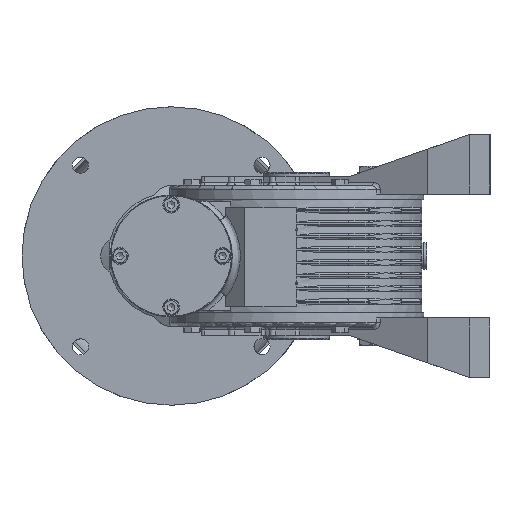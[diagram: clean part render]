
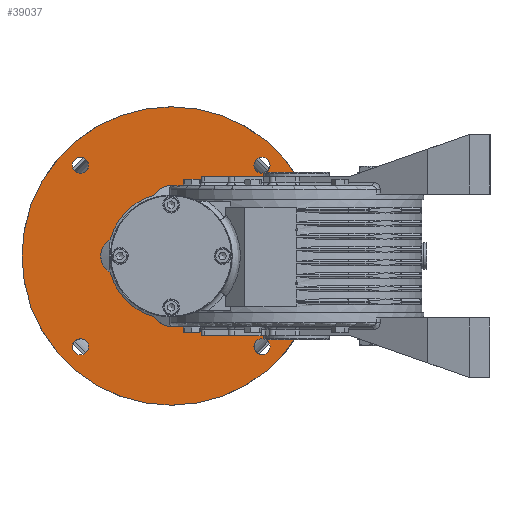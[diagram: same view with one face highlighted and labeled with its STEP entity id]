
A CAD part, left-side view. The second image highlights one B-rep face of the part: STEP entity #39037.
In plain terms, the highlighted planar face has unit normal (-1, 0, 0) as drawn and (0, 0, 1) by its records, which use the part's own axes.
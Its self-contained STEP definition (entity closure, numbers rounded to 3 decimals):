
#37274=CARTESIAN_POINT('',(-82.764,-76.014,11.0));
#37275=VERTEX_POINT('',#37274);
#37276=CARTESIAN_POINT('',(-76.014,-76.014,11.0));
#37277=DIRECTION('',(0.0,0.0,-1.0));
#37278=DIRECTION('',(1.0,0.0,0.0));
#37279=AXIS2_PLACEMENT_3D('',#37276,#37277,#37278);
#37280=CIRCLE('',#37279,6.75);
#37281=EDGE_CURVE('',#37275,#37275,#37280,.T.);
#37294=CARTESIAN_POINT('',(69.264,76.014,11.0));
#37295=VERTEX_POINT('',#37294);
#37296=CARTESIAN_POINT('',(76.014,76.014,11.0));
#37297=DIRECTION('',(0.0,0.0,-1.0));
#37298=DIRECTION('',(1.0,0.0,0.0));
#37299=AXIS2_PLACEMENT_3D('',#37296,#37297,#37298);
#37300=CIRCLE('',#37299,6.75);
#37301=EDGE_CURVE('',#37295,#37295,#37300,.T.);
#37314=CARTESIAN_POINT('',(-82.764,76.014,11.0));
#37315=VERTEX_POINT('',#37314);
#37316=CARTESIAN_POINT('',(-76.014,76.014,11.0));
#37317=DIRECTION('',(0.0,0.0,-1.0));
#37318=DIRECTION('',(1.0,0.0,0.0));
#37319=AXIS2_PLACEMENT_3D('',#37316,#37317,#37318);
#37320=CIRCLE('',#37319,6.75);
#37321=EDGE_CURVE('',#37315,#37315,#37320,.T.);
#37334=CARTESIAN_POINT('',(69.264,-76.014,11.0));
#37335=VERTEX_POINT('',#37334);
#37336=CARTESIAN_POINT('',(76.014,-76.014,11.0));
#37337=DIRECTION('',(0.0,0.0,-1.0));
#37338=DIRECTION('',(1.0,0.0,0.0));
#37339=AXIS2_PLACEMENT_3D('',#37336,#37337,#37338);
#37340=CIRCLE('',#37339,6.75);
#37341=EDGE_CURVE('',#37335,#37335,#37340,.T.);
#38777=CARTESIAN_POINT('',(-13.747,51.186,11.0));
#38778=VERTEX_POINT('',#38777);
#38785=CARTESIAN_POINT('',(-51.186,13.747,11.0));
#38786=VERTEX_POINT('',#38785);
#38787=CARTESIAN_POINT('',(0.0,0.0,11.0));
#38788=DIRECTION('',(0.0,0.0,-1.0));
#38789=DIRECTION('',(-1.0,0.0,0.0));
#38790=AXIS2_PLACEMENT_3D('',#38787,#38788,#38789);
#38791=CIRCLE('',#38790,53.);
#38792=EDGE_CURVE('',#38786,#38778,#38791,.T.);
#38810=CARTESIAN_POINT('',(13.747,51.186,11.0));
#38811=VERTEX_POINT('',#38810);
#38818=CARTESIAN_POINT('',(0.0,43.0,11.0));
#38819=DIRECTION('',(0.0,0.0,-1.0));
#38820=DIRECTION('',(-1.0,0.0,0.0));
#38821=AXIS2_PLACEMENT_3D('',#38818,#38819,#38820);
#38822=CIRCLE('',#38821,16.0);
#38823=EDGE_CURVE('',#38778,#38811,#38822,.T.);
#38835=CARTESIAN_POINT('',(51.186,13.747,11.0));
#38836=VERTEX_POINT('',#38835);
#38843=CARTESIAN_POINT('',(0.0,0.0,11.0));
#38844=DIRECTION('',(0.0,0.0,-1.0));
#38845=DIRECTION('',(-1.0,0.0,0.0));
#38846=AXIS2_PLACEMENT_3D('',#38843,#38844,#38845);
#38847=CIRCLE('',#38846,53.);
#38848=EDGE_CURVE('',#38811,#38836,#38847,.T.);
#38872=CARTESIAN_POINT('',(-51.186,-13.747,11.0));
#38873=VERTEX_POINT('',#38872);
#38880=CARTESIAN_POINT('',(-13.747,-51.186,11.0));
#38881=VERTEX_POINT('',#38880);
#38882=CARTESIAN_POINT('',(0.0,0.0,11.0));
#38883=DIRECTION('',(0.0,0.0,-1.0));
#38884=DIRECTION('',(-1.0,0.0,0.0));
#38885=AXIS2_PLACEMENT_3D('',#38882,#38883,#38884);
#38886=CIRCLE('',#38885,53.);
#38887=EDGE_CURVE('',#38881,#38873,#38886,.T.);
#38904=CARTESIAN_POINT('',(13.747,-51.186,11.0));
#38905=VERTEX_POINT('',#38904);
#38912=CARTESIAN_POINT('',(51.186,-13.747,11.0));
#38913=VERTEX_POINT('',#38912);
#38914=CARTESIAN_POINT('',(0.0,0.0,11.0));
#38915=DIRECTION('',(0.0,0.0,-1.0));
#38916=DIRECTION('',(-1.0,0.0,0.0));
#38917=AXIS2_PLACEMENT_3D('',#38914,#38915,#38916);
#38918=CIRCLE('',#38917,53.);
#38919=EDGE_CURVE('',#38913,#38905,#38918,.T.);
#38937=CARTESIAN_POINT('',(43.0,0.,11.0));
#38938=DIRECTION('',(0.0,0.0,-1.0));
#38939=DIRECTION('',(-1.0,0.0,0.0));
#38940=AXIS2_PLACEMENT_3D('',#38937,#38938,#38939);
#38941=CIRCLE('',#38940,16.0);
#38942=EDGE_CURVE('',#38836,#38913,#38941,.T.);
#38956=CARTESIAN_POINT('',(-43.0,0.,11.0));
#38957=DIRECTION('',(0.0,0.0,-1.0));
#38958=DIRECTION('',(-1.0,0.0,0.0));
#38959=AXIS2_PLACEMENT_3D('',#38956,#38957,#38958);
#38960=CIRCLE('',#38959,16.0);
#38961=EDGE_CURVE('',#38873,#38786,#38960,.T.);
#38975=CARTESIAN_POINT('',(0.,-43.0,11.0));
#38976=DIRECTION('',(0.0,0.0,-1.0));
#38977=DIRECTION('',(-1.0,0.0,0.0));
#38978=AXIS2_PLACEMENT_3D('',#38975,#38976,#38977);
#38979=CIRCLE('',#38978,16.0);
#38980=EDGE_CURVE('',#38905,#38881,#38979,.T.);
#38992=CARTESIAN_POINT('',(125.0,0.,11.0));
#38993=VERTEX_POINT('',#38992);
#38994=CARTESIAN_POINT('',(0.0,0.0,11.0));
#38995=DIRECTION('',(0.0,0.0,-1.0));
#38996=DIRECTION('',(-1.0,0.0,0.0));
#38997=AXIS2_PLACEMENT_3D('',#38994,#38995,#38996);
#38998=CIRCLE('',#38997,125.0);
#38999=EDGE_CURVE('',#38993,#38993,#38998,.T.);
#39007=CARTESIAN_POINT('',(0.0,0.0,11.0));
#39008=DIRECTION('',(0.0,0.0,-1.0));
#39009=DIRECTION('',(-1.0,0.0,0.0));
#39010=AXIS2_PLACEMENT_3D('',#39007,#39008,#39009);
#39011=PLANE('',#39010);
#39012=ORIENTED_EDGE('',*,*,#38999,.F.);
#39013=EDGE_LOOP('',(#39012));
#39014=FACE_OUTER_BOUND('',#39013,.T.);
#39015=ORIENTED_EDGE('',*,*,#37281,.T.);
#39016=EDGE_LOOP('',(#39015));
#39017=FACE_BOUND('',#39016,.T.);
#39018=ORIENTED_EDGE('',*,*,#37301,.T.);
#39019=EDGE_LOOP('',(#39018));
#39020=FACE_BOUND('',#39019,.T.);
#39021=ORIENTED_EDGE('',*,*,#37321,.T.);
#39022=EDGE_LOOP('',(#39021));
#39023=FACE_BOUND('',#39022,.T.);
#39024=ORIENTED_EDGE('',*,*,#37341,.T.);
#39025=EDGE_LOOP('',(#39024));
#39026=FACE_BOUND('',#39025,.T.);
#39027=ORIENTED_EDGE('',*,*,#38919,.T.);
#39028=ORIENTED_EDGE('',*,*,#38980,.T.);
#39029=ORIENTED_EDGE('',*,*,#38887,.T.);
#39030=ORIENTED_EDGE('',*,*,#38961,.T.);
#39031=ORIENTED_EDGE('',*,*,#38792,.T.);
#39032=ORIENTED_EDGE('',*,*,#38823,.T.);
#39033=ORIENTED_EDGE('',*,*,#38848,.T.);
#39034=ORIENTED_EDGE('',*,*,#38942,.T.);
#39035=EDGE_LOOP('',(#39027,#39028,#39029,#39030,#39031,#39032,#39033,#39034));
#39036=FACE_BOUND('',#39035,.T.);
#39037=ADVANCED_FACE('',(#39014,#39017,#39020,#39023,#39026,#39036),#39011,.F.);
